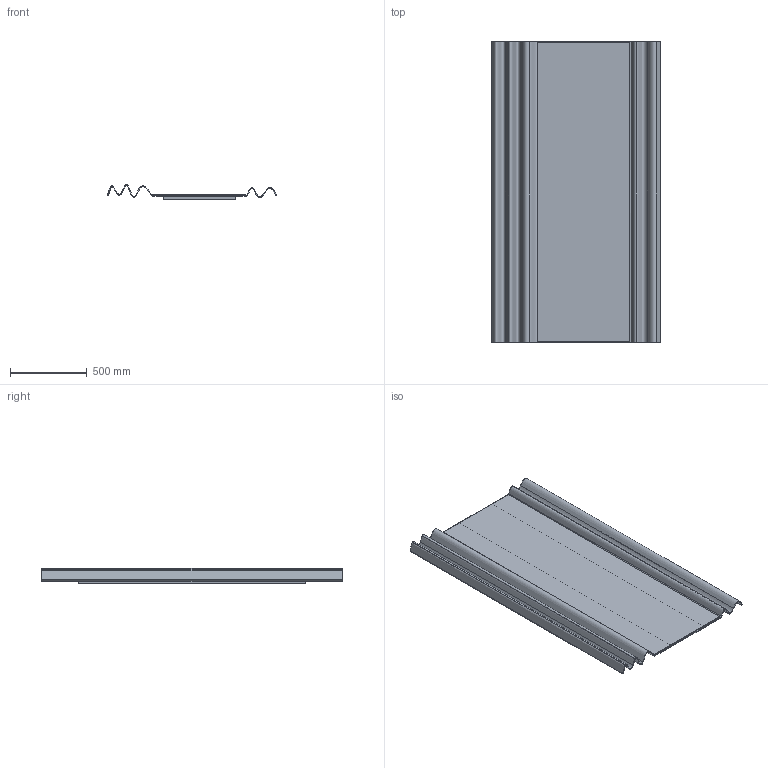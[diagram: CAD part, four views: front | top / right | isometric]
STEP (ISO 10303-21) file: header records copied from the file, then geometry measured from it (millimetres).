
FILE_DESCRIPTION (( 'STEP AP203' ), '1' );
FILE_NAME ('ROL01_Rolli_110x196.STEP', '2024-08-06T07:49:05', ( '' ), ( '' ), 'SwSTEP 2.0', 'SolidWorks 2022', '' );
FILE_SCHEMA (( 'CONFIG_CONTROL_DESIGN' ));
Length unit declared in the file: millimetre
Products named in the file (4): rolli telaio; adesivo gommoso eforma; ROL01_Rolli_110x196; specchio rolli per istruzioni
Assembly tree (3 placements, depth 2):
  ROL01_Rolli_110x196
    specchio rolli per istruzioni
    rolli telaio
    adesivo gommoso eforma
Bounding box: 1099.98 x 1960 x 97.96 mm (x, y, z)
Volume: 20428483.8 mm3; surface area: 8403560.2 mm2
Topology: 4 solids, 4 shells, 88 faces, 245 edges, 163 vertices
Faces by surface type: plane 42, bspline 34, cylinder 8, sphere 4
Entity records: 8400 total; most frequent: CARTESIAN_POINT 6003, ORIENTED_EDGE 482, DIRECTION 287, EDGE_CURVE 241, VERTEX_POINT 163, LINE 143, VECTOR 143, EDGE_LOOP 92
